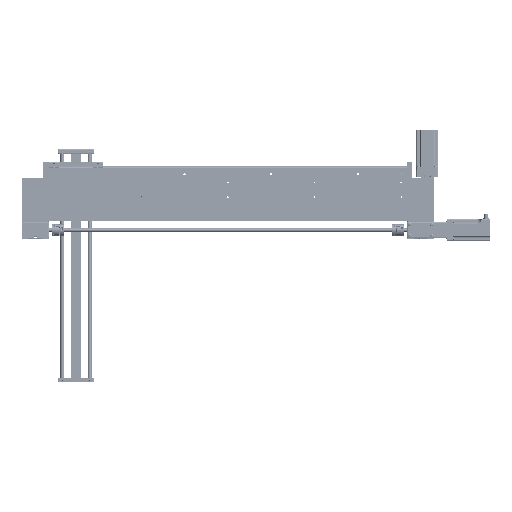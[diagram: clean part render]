
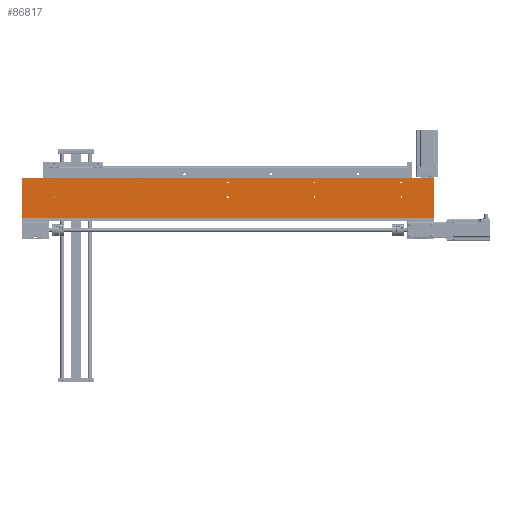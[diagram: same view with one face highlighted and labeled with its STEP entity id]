
A CAD part, top view. The second image highlights one B-rep face of the part: STEP entity #86817.
In plain terms, the highlighted planar face has unit normal (0, 0, 1) as drawn and (-1, 0, 0) by its records, which use the part's own axes.
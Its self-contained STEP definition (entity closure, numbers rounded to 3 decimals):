
#4842=FACE_BOUND('',#16685,.T.);
#4843=FACE_BOUND('',#16686,.T.);
#4844=FACE_BOUND('',#16687,.T.);
#4845=FACE_BOUND('',#16688,.T.);
#4846=FACE_BOUND('',#16689,.T.);
#4847=FACE_BOUND('',#16690,.T.);
#4848=FACE_BOUND('',#16691,.T.);
#4849=FACE_BOUND('',#16692,.T.);
#4850=FACE_BOUND('',#16693,.T.);
#4851=FACE_BOUND('',#16694,.T.);
#6822=PLANE('',#98989);
#11308=FACE_OUTER_BOUND('',#16684,.T.);
#16684=EDGE_LOOP('',(#79065,#79066,#79067,#79068));
#16685=EDGE_LOOP('',(#79069));
#16686=EDGE_LOOP('',(#79070));
#16687=EDGE_LOOP('',(#79071));
#16688=EDGE_LOOP('',(#79072));
#16689=EDGE_LOOP('',(#79073));
#16690=EDGE_LOOP('',(#79074));
#16691=EDGE_LOOP('',(#79075));
#16692=EDGE_LOOP('',(#79076));
#16693=EDGE_LOOP('',(#79077));
#16694=EDGE_LOOP('',(#79078));
#22844=LINE('',#158701,#29082);
#22849=LINE('',#158710,#29087);
#22850=LINE('',#158712,#29088);
#22851=LINE('',#158713,#29089);
#29082=VECTOR('',#124837,10.);
#29087=VECTOR('',#124844,10.);
#29088=VECTOR('',#124845,10.);
#29089=VECTOR('',#124846,10.);
#34470=CIRCLE('',#98878,2.067);
#34473=CIRCLE('',#98882,2.067);
#34476=CIRCLE('',#98886,2.067);
#34479=CIRCLE('',#98890,2.067);
#34482=CIRCLE('',#98894,2.067);
#34485=CIRCLE('',#98898,2.067);
#34488=CIRCLE('',#98902,2.067);
#34491=CIRCLE('',#98906,2.067);
#34494=CIRCLE('',#98910,2.067);
#34497=CIRCLE('',#98914,2.067);
#42552=VERTEX_POINT('',#158478);
#42555=VERTEX_POINT('',#158486);
#42558=VERTEX_POINT('',#158494);
#42561=VERTEX_POINT('',#158502);
#42564=VERTEX_POINT('',#158510);
#42567=VERTEX_POINT('',#158518);
#42570=VERTEX_POINT('',#158526);
#42573=VERTEX_POINT('',#158534);
#42576=VERTEX_POINT('',#158542);
#42579=VERTEX_POINT('',#158550);
#42632=VERTEX_POINT('',#158699);
#42633=VERTEX_POINT('',#158700);
#42636=VERTEX_POINT('',#158709);
#42637=VERTEX_POINT('',#158711);
#54763=EDGE_CURVE('',#42552,#42552,#34470,.T.);
#54767=EDGE_CURVE('',#42555,#42555,#34473,.T.);
#54771=EDGE_CURVE('',#42558,#42558,#34476,.T.);
#54775=EDGE_CURVE('',#42561,#42561,#34479,.T.);
#54779=EDGE_CURVE('',#42564,#42564,#34482,.T.);
#54783=EDGE_CURVE('',#42567,#42567,#34485,.T.);
#54787=EDGE_CURVE('',#42570,#42570,#34488,.T.);
#54791=EDGE_CURVE('',#42573,#42573,#34491,.T.);
#54795=EDGE_CURVE('',#42576,#42576,#34494,.T.);
#54799=EDGE_CURVE('',#42579,#42579,#34497,.T.);
#54868=EDGE_CURVE('',#42632,#42633,#22844,.T.);
#54873=EDGE_CURVE('',#42636,#42632,#22849,.T.);
#54874=EDGE_CURVE('',#42637,#42636,#22850,.T.);
#54875=EDGE_CURVE('',#42633,#42637,#22851,.T.);
#79065=ORIENTED_EDGE('',*,*,#54873,.F.);
#79066=ORIENTED_EDGE('',*,*,#54874,.F.);
#79067=ORIENTED_EDGE('',*,*,#54875,.F.);
#79068=ORIENTED_EDGE('',*,*,#54868,.F.);
#79069=ORIENTED_EDGE('',*,*,#54763,.T.);
#79070=ORIENTED_EDGE('',*,*,#54767,.T.);
#79071=ORIENTED_EDGE('',*,*,#54771,.T.);
#79072=ORIENTED_EDGE('',*,*,#54775,.T.);
#79073=ORIENTED_EDGE('',*,*,#54779,.T.);
#79074=ORIENTED_EDGE('',*,*,#54783,.T.);
#79075=ORIENTED_EDGE('',*,*,#54787,.T.);
#79076=ORIENTED_EDGE('',*,*,#54791,.T.);
#79077=ORIENTED_EDGE('',*,*,#54795,.T.);
#79078=ORIENTED_EDGE('',*,*,#54799,.T.);
#86817=ADVANCED_FACE('',(#11308,#4842,#4843,#4844,#4845,#4846,#4847,#4848,
#4849,#4850,#4851),#6822,.T.);
#98878=AXIS2_PLACEMENT_3D('',#158480,#124586,#124587);
#98882=AXIS2_PLACEMENT_3D('',#158488,#124595,#124596);
#98886=AXIS2_PLACEMENT_3D('',#158496,#124604,#124605);
#98890=AXIS2_PLACEMENT_3D('',#158504,#124613,#124614);
#98894=AXIS2_PLACEMENT_3D('',#158512,#124622,#124623);
#98898=AXIS2_PLACEMENT_3D('',#158520,#124631,#124632);
#98902=AXIS2_PLACEMENT_3D('',#158528,#124640,#124641);
#98906=AXIS2_PLACEMENT_3D('',#158536,#124649,#124650);
#98910=AXIS2_PLACEMENT_3D('',#158544,#124658,#124659);
#98914=AXIS2_PLACEMENT_3D('',#158552,#124667,#124668);
#98989=AXIS2_PLACEMENT_3D('',#158708,#124842,#124843);
#124586=DIRECTION('center_axis',(1.,0.,0.));
#124587=DIRECTION('ref_axis',(0.,0.,-1.));
#124595=DIRECTION('center_axis',(1.,0.,0.));
#124596=DIRECTION('ref_axis',(0.,0.,-1.));
#124604=DIRECTION('center_axis',(1.,0.,0.));
#124605=DIRECTION('ref_axis',(0.,0.,-1.));
#124613=DIRECTION('center_axis',(1.,0.,0.));
#124614=DIRECTION('ref_axis',(0.,0.,-1.));
#124622=DIRECTION('center_axis',(1.,0.,0.));
#124623=DIRECTION('ref_axis',(0.,0.,-1.));
#124631=DIRECTION('center_axis',(1.,0.,0.));
#124632=DIRECTION('ref_axis',(0.,0.,-1.));
#124640=DIRECTION('center_axis',(1.,0.,0.));
#124641=DIRECTION('ref_axis',(0.,0.,-1.));
#124649=DIRECTION('center_axis',(1.,0.,0.));
#124650=DIRECTION('ref_axis',(0.,0.,-1.));
#124658=DIRECTION('center_axis',(1.,0.,0.));
#124659=DIRECTION('ref_axis',(0.,0.,-1.));
#124667=DIRECTION('center_axis',(1.,0.,0.));
#124668=DIRECTION('ref_axis',(0.,0.,-1.));
#124837=DIRECTION('',(0.,1.,0.));
#124842=DIRECTION('center_axis',(-1.,0.,0.));
#124843=DIRECTION('ref_axis',(0.,-1.,0.));
#124844=DIRECTION('',(0.,0.,-1.));
#124845=DIRECTION('',(0.,-1.,0.));
#124846=DIRECTION('',(0.,0.,1.));
#158478=CARTESIAN_POINT('',(-8.,106.,482.067));
#158480=CARTESIAN_POINT('Origin',(-8.,106.,480.));
#158486=CARTESIAN_POINT('',(-8.,66.,482.067));
#158488=CARTESIAN_POINT('Origin',(-8.,66.,480.));
#158494=CARTESIAN_POINT('',(-8.,106.,242.067));
#158496=CARTESIAN_POINT('Origin',(-8.,106.,240.));
#158502=CARTESIAN_POINT('',(-8.,66.,242.067));
#158504=CARTESIAN_POINT('Origin',(-8.,66.,240.));
#158510=CARTESIAN_POINT('',(-8.,106.,-237.933));
#158512=CARTESIAN_POINT('Origin',(-8.,106.,-240.));
#158518=CARTESIAN_POINT('',(-8.,66.,-237.933));
#158520=CARTESIAN_POINT('Origin',(-8.,66.,-240.));
#158526=CARTESIAN_POINT('',(-8.,106.,-477.933));
#158528=CARTESIAN_POINT('Origin',(-8.,106.,-480.));
#158534=CARTESIAN_POINT('',(-8.,66.,-477.933));
#158536=CARTESIAN_POINT('Origin',(-8.,66.,-480.));
#158542=CARTESIAN_POINT('',(-8.,106.,2.067));
#158544=CARTESIAN_POINT('Origin',(-8.,106.,0.));
#158550=CARTESIAN_POINT('',(-8.,66.,2.067));
#158552=CARTESIAN_POINT('Origin',(-8.,66.,0.));
#158699=CARTESIAN_POINT('',(-8.,8.,-570.));
#158700=CARTESIAN_POINT('',(-8.,120.,-570.));
#158701=CARTESIAN_POINT('',(-8.,120.,-570.));
#158708=CARTESIAN_POINT('Origin',(-8.,120.,0.));
#158709=CARTESIAN_POINT('',(-8.,8.,570.));
#158710=CARTESIAN_POINT('',(-8.,8.,0.));
#158711=CARTESIAN_POINT('',(-8.,120.,570.));
#158712=CARTESIAN_POINT('',(-8.,120.,570.));
#158713=CARTESIAN_POINT('',(-8.,120.,0.));
